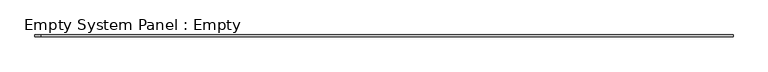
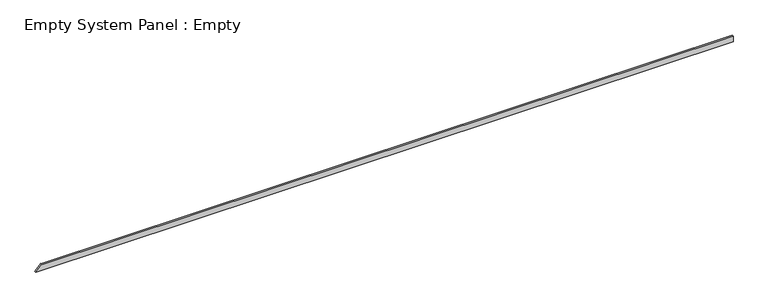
"""IFC4 building model written with IfcOpenShell, lengths in millimetres: plate geometry, Empty System Panel : Empty."""

from ifc_helpers import new_model, si_unit, frame, origin, place, context, project, spatial, polyline, outline, extrude, source, transform, mapped, element, save


def empty_system_panel_empty_c92cdc9c(model_context):
    return source(origin(), model_context, "Body", "SweptSolid", [
        extrude(outline(polyline([(0.0, -18928.4549319), (0.0, 18928.4549319), (310.0, 18928.4549319), (310.0, -18602.1059355), (330.0, -18602.1059355), (0.0, -18928.4549319)])), frame((0.0, -50.0, 0.0), z_axis=(0.0, 1.0, 0.0), x_axis=(0.0, 0.0, 1.0)), (0.0, 0.0, 1.0), 100.0),
    ])


if __name__ == "__main__":
    model = new_model("IFC4")
    model_context = context("Model", 3, world=origin())
    ifc_project = project(units=[si_unit("LENGTHUNIT", "METRE", prefix="MILLI")], contexts=[model_context])
    site = spatial("IfcSite", under=ifc_project)
    building = spatial("IfcBuilding", under=site)
    placement = place(None, origin())
    empty_system_panel_empty_shape = empty_system_panel_empty_c92cdc9c(model_context)
    element("IfcPlate", 1, ObjectType="Empty System Panel : Empty", at=placement, inside=building, context=model_context, shape_type="MappedRepresentation", body=[
        mapped(empty_system_panel_empty_shape, transform((0.0, 0.0, 0.0), x_axis=(1.0, 0.0, 0.0), y_axis=(0.0, 1.0, 0.0), z_axis=(0.0, 0.0, 1.0))),
    ])
    save(model, "model.ifc")
